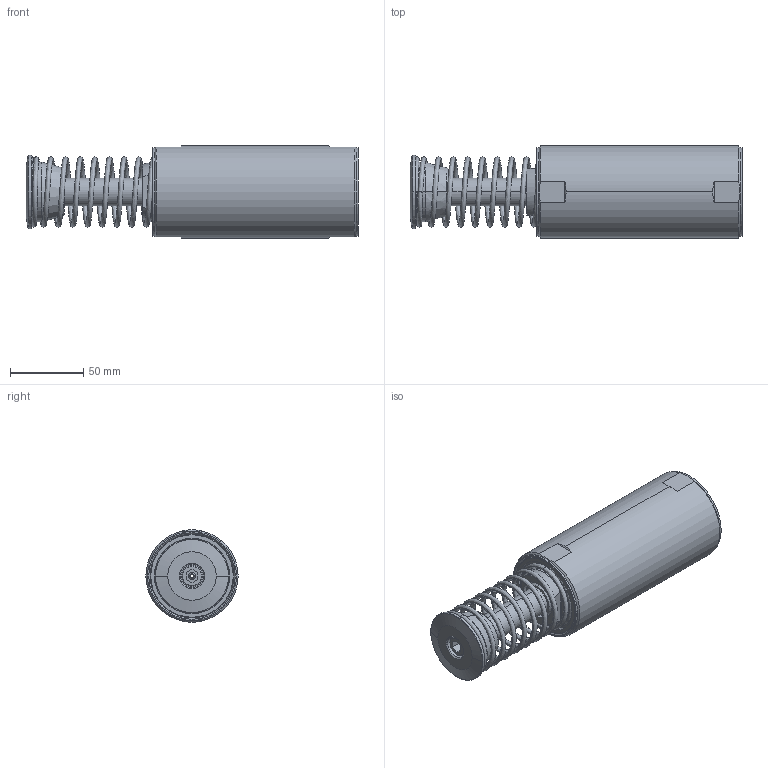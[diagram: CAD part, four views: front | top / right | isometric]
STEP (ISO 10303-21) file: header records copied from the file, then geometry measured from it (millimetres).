
FILE_DESCRIPTION (( 'STEP AP214' ), '1' );
FILE_NAME ('PMXT 2050.STEP', '2010-08-04T14:54:30', ( ' ' ), ( '' ), 'SwSTEP 2.0', 'SolidWorks 2006233', '' );
FILE_SCHEMA (( 'AUTOMOTIVE_DESIGN' ));
Length unit declared in the file: inch
Products named in the file (1): PMXT 2050
Bounding box: 226.14 x 62.87 x 62.87 mm (x, y, z)
Surface area: 64968.6 mm2 (no closed solid volume)
Topology: 0 solids, 8 shells, 125 faces, 295 edges, 183 vertices
Faces by surface type: plane 45, cone 40, cylinder 32, bspline 6, torus 2
Entity records: 9552 total; most frequent: CARTESIAN_POINT 5081, DIRECTION 618, ORIENTED_EDGE 550, EDGE_CURVE 295, AXIS2_PLACEMENT_3D 248, VERTEX_POINT 183, EDGE_LOOP 139, CIRCLE 128
